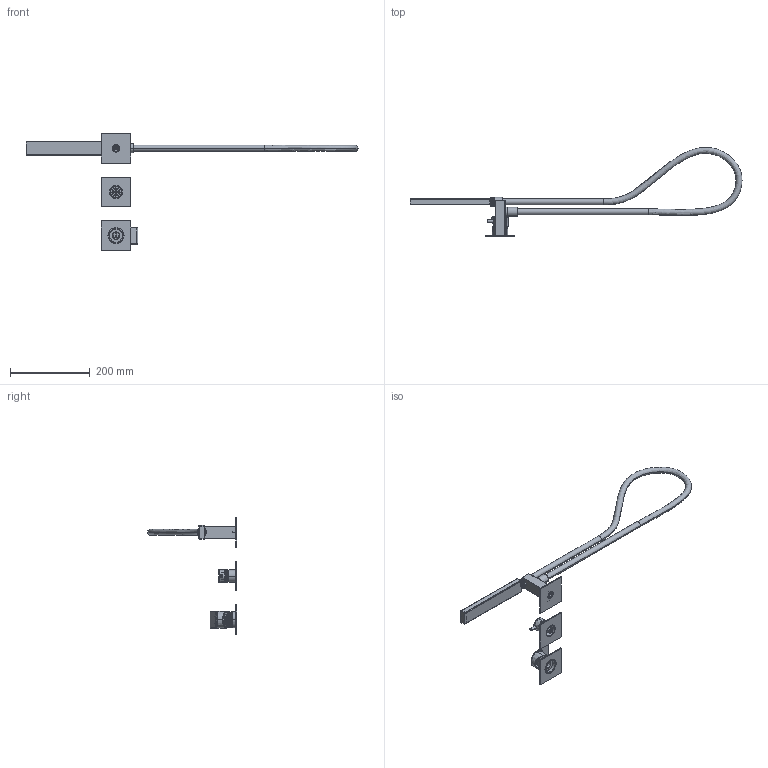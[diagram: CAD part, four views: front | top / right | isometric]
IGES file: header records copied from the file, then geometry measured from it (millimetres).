
Start section:  PTC IGES file: 74569v2_sw0001.igs
Global section: file name: 74569v2_sw0001.igs; native system: Creo Parametric by PTC Inc.; preprocessor: 2022014; author: volponeff; organization: Unknown; date: 20241127.131527; units: millimetre
Bounding box: 835.29 x 223.95 x 295 mm (x, y, z)
Surface area: 232820.2 mm2 (no closed solid volume)
Topology: 0 solids, 0 shells, 1855 faces, 9440 edges, 9414 vertices
Faces by surface type: revolution 1102, bspline 753
